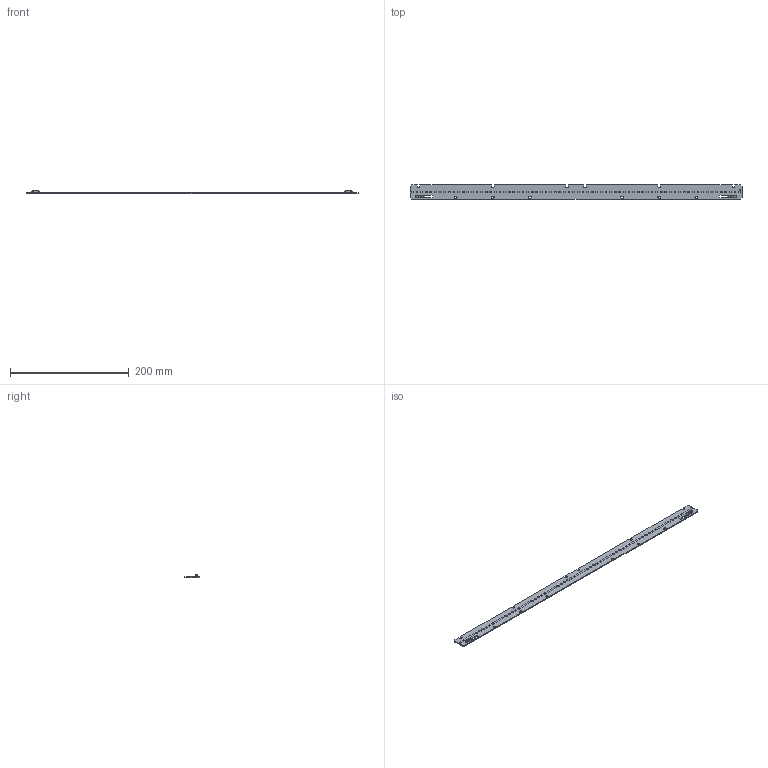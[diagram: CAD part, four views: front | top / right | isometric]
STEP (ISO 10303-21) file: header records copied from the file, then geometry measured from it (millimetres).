
FILE_DESCRIPTION((''),'2;1');
FILE_NAME('16208805_LLE-G5-24X560-4000LM','2020-03-03T09:08:12',('bernhard.fink'),(''),'CREO PARAMETRIC BY PTC INC, 2019164','CREO PARAMETRIC BY PTC INC, 2019164','');
FILE_SCHEMA(('CONFIG_CONTROL_DESIGN'));
Products named in the file (1): 16208805_LLE-G5-24X560-4000LM
Bounding box: 559 x 23.6 x 5.1 mm (x, y, z)
Volume: 21567.5 mm3; surface area: 28817 mm2
Topology: 1 solids, 11 shells, 1195 faces, 3236 edges, 2132 vertices
Faces by surface type: plane 649, cylinder 376, bspline 100, cone 34, sphere 20, torus 16
Entity records: 64353 total; most frequent: CARTESIAN_POINT 35238, ORIENTED_EDGE 6292, DIRECTION 5500, EDGE_CURVE 3232, VERTEX_POINT 2130, VECTOR 2012, LINE 2012, AXIS2_PLACEMENT_3D 1744
